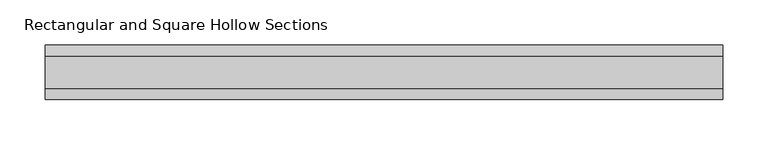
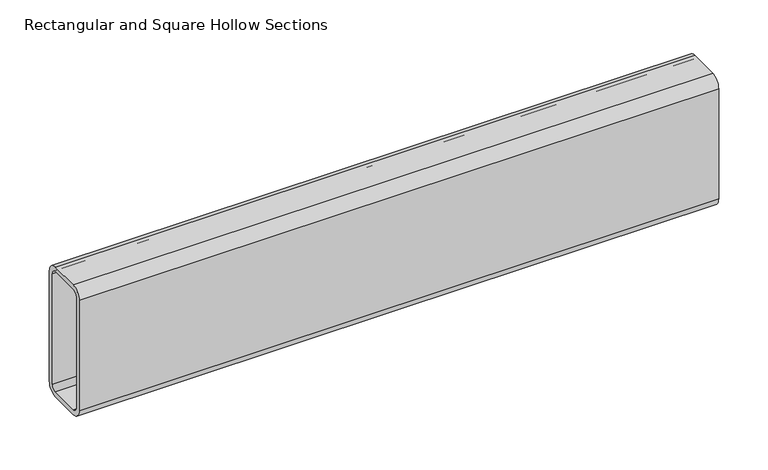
"""IFC4 building model written with IfcOpenShell, lengths in millimetres: beam geometry, Rectangular and Square Hollow Sections : TREC160x60x6."""

from ifc_helpers import new_model, si_unit, point, frame, frame_2d, origin, place, context, project, spatial, polyline, circle_curve, trimmed, segment, composite_curve, outline, extrude, source, transform, mapped, element, save


def rectangular_and_square_hollow_sections_c64638fc(model_context):
    return source(origin(), model_context, "Body", "SweptSolid", [
        extrude(outline(composite_curve([segment(polyline([(30.0, 68.0), (30.0, -68.0)]), True, "CONTINUOUS"), segment(trimmed(circle_curve(frame_2d((18.0, -68.0)), 12.0), [point((30.0, -68.0))], [point((18.0, -80.0))], False, "CARTESIAN"), True, "CONTINUOUS"), segment(polyline([(18.0, -80.0), (-18.0, -80.0)]), True, "CONTINUOUS"), segment(trimmed(circle_curve(frame_2d((-18.0, -68.0)), 12.0), [point((-18.0, -80.0))], [point((-30.0, -68.0))], False, "CARTESIAN"), True, "CONTINUOUS"), segment(polyline([(-30.0, -68.0), (-30.0, 68.0)]), True, "CONTINUOUS"), segment(trimmed(circle_curve(frame_2d((-18.0, 68.0)), 12.0), [point((-30.0, 68.0))], [point((-18.0, 80.0))], False, "CARTESIAN"), True, "CONTINUOUS"), segment(polyline([(-18.0, 80.0), (18.0, 80.0)]), True, "CONTINUOUS"), segment(trimmed(circle_curve(frame_2d((18.0, 68.0)), 12.0), [point((18.0, 80.0))], [point((30.0, 68.0))], False, "CARTESIAN"), True, "CONTINUOUS")], self_intersect=False), holes=[composite_curve([segment(trimmed(circle_curve(frame_2d((-18.0, 68.0)), 6.0), [point((-18.0, 74.0))], [point((-24.0, 68.0))], True, "CARTESIAN"), True, "CONTINUOUS"), segment(polyline([(-24.0, 68.0), (-24.0, -68.0)]), True, "CONTINUOUS"), segment(trimmed(circle_curve(frame_2d((-18.0, -68.0)), 6.0), [point((-24.0, -68.0))], [point((-18.0, -74.0))], True, "CARTESIAN"), True, "CONTINUOUS"), segment(polyline([(-18.0, -74.0), (18.0, -74.0)]), True, "CONTINUOUS"), segment(trimmed(circle_curve(frame_2d((18.0, -68.0)), 6.0), [point((18.0, -74.0))], [point((24.0, -68.0))], True, "CARTESIAN"), True, "CONTINUOUS"), segment(polyline([(24.0, -68.0), (24.0, 68.0)]), True, "CONTINUOUS"), segment(trimmed(circle_curve(frame_2d((18.0, 68.0)), 6.0), [point((24.0, 68.0))], [point((18.0, 74.0))], True, "CARTESIAN"), True, "CONTINUOUS"), segment(polyline([(18.0, 74.0), (-18.0, 74.0)]), True, "CONTINUOUS")], self_intersect=False)]), frame((-366.5, 0.0, 0.0), z_axis=(1.0, 0.0, 0.0), x_axis=(0.0, 1.0, 0.0)), (0.0, 0.0, 1.0), 746.0),
    ])


if __name__ == "__main__":
    model = new_model("IFC4")
    model_context = context("Model", 3, world=origin())
    ifc_project = project(units=[si_unit("LENGTHUNIT", "METRE", prefix="MILLI")], contexts=[model_context])
    site = spatial("IfcSite", under=ifc_project)
    building = spatial("IfcBuilding", under=site)
    placement = place(None, origin())
    rectangular_and_square_hollow_sections_shape = rectangular_and_square_hollow_sections_c64638fc(model_context)
    element("IfcBeam", 1, ObjectType="Rectangular and Square Hollow Sections : TREC160x60x6", at=placement, inside=building, context=model_context, shape_type="MappedRepresentation", body=[
        mapped(rectangular_and_square_hollow_sections_shape, transform((0.0, 0.0, 0.0), x_axis=(1.0, 0.0, 0.0), y_axis=(0.0, 1.0, 0.0), z_axis=(0.0, 0.0, 1.0))),
    ])
    save(model, "model.ifc")
